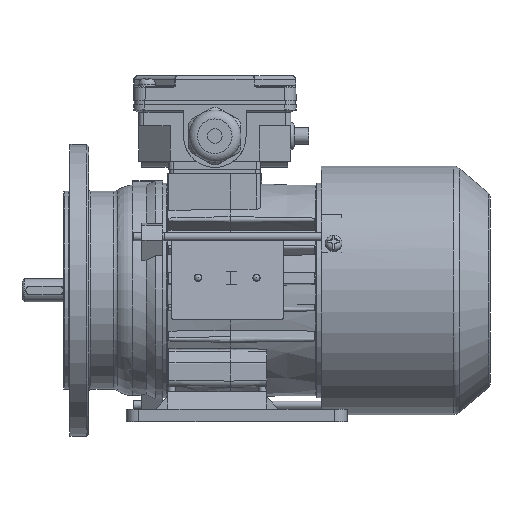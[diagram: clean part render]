
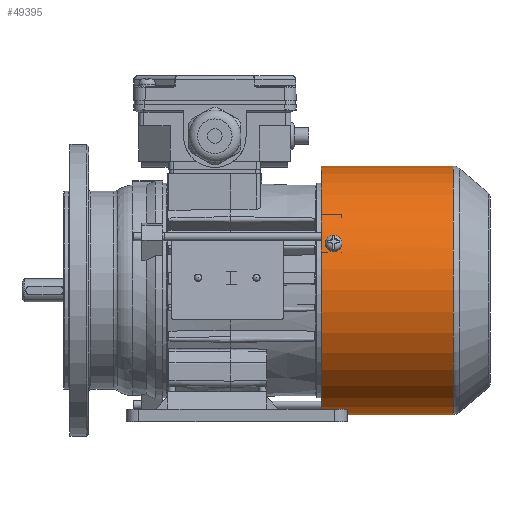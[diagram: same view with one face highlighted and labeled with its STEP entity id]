
A CAD part, front view. The second image highlights one B-rep face of the part: STEP entity #49395.
In plain terms, the highlighted cylindrical face has radius 59.6 mm (diameter 119.2 mm), a full revolution.
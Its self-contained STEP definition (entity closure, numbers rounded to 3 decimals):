
#837=B_SPLINE_CURVE_WITH_KNOTS('',3,(#74218,#74219,#74220,#74221,#74222,
#74223,#74224),.UNSPECIFIED.,.F.,.F.,(4,1,1,1,4),(0.,0.002,
0.004,0.006,0.008),
 .UNSPECIFIED.);
#839=B_SPLINE_CURVE_WITH_KNOTS('',3,(#74242,#74243,#74244,#74245,#74246,
#74247,#74248),.UNSPECIFIED.,.F.,.F.,(4,1,1,1,4),(0.,0.002,
0.004,0.006,0.008),
 .UNSPECIFIED.);
#841=B_SPLINE_CURVE_WITH_KNOTS('',3,(#74270,#74271,#74272,#74273,#74274,
#74275,#74276),.UNSPECIFIED.,.F.,.F.,(4,1,1,1,4),(0.,0.002,
0.004,0.006,0.008),
 .UNSPECIFIED.);
#843=B_SPLINE_CURVE_WITH_KNOTS('',3,(#74294,#74295,#74296,#74297,#74298,
#74299,#74300),.UNSPECIFIED.,.F.,.F.,(4,1,1,1,4),(0.,0.002,
0.004,0.006,0.008),
 .UNSPECIFIED.);
#844=B_SPLINE_CURVE_WITH_KNOTS('',3,(#74305,#74306,#74307,#74308,#74309,
#74310,#74311),.UNSPECIFIED.,.F.,.F.,(4,1,1,1,4),(0.,0.002,
0.004,0.006,0.007),
 .UNSPECIFIED.);
#845=B_SPLINE_CURVE_WITH_KNOTS('',3,(#74314,#74315,#74316,#74317,#74318,
#74319,#74320),.UNSPECIFIED.,.F.,.F.,(4,1,1,1,4),(0.,
0.002,0.004,0.006,0.007),
 .UNSPECIFIED.);
#1717=CYLINDRICAL_SURFACE('',#52664,59.6);
#2686=CIRCLE('',#51479,59.6);
#3241=CIRCLE('',#52648,59.6);
#3243=CIRCLE('',#52653,59.6);
#3244=CIRCLE('',#52655,59.6);
#3246=CIRCLE('',#52659,59.6);
#3248=CIRCLE('',#52663,59.6);
#11276=ORIENTED_EDGE('',*,*,#17951,.T.);
#11277=ORIENTED_EDGE('',*,*,#17948,.T.);
#11278=ORIENTED_EDGE('',*,*,#17956,.T.);
#11279=ORIENTED_EDGE('',*,*,#17954,.T.);
#11280=ORIENTED_EDGE('',*,*,#17970,.F.);
#11281=ORIENTED_EDGE('',*,*,#17971,.F.);
#11282=ORIENTED_EDGE('',*,*,#17964,.T.);
#11283=ORIENTED_EDGE('',*,*,#17961,.T.);
#11284=ORIENTED_EDGE('',*,*,#17969,.T.);
#11285=ORIENTED_EDGE('',*,*,#17967,.T.);
#11286=ORIENTED_EDGE('',*,*,#16345,.F.);
#11287=ORIENTED_EDGE('',*,*,#17957,.T.);
#16345=EDGE_CURVE('',#20813,#20813,#2686,.T.);
#17948=EDGE_CURVE('',#21908,#21911,#837,.T.);
#17951=EDGE_CURVE('',#21912,#21908,#3241,.F.);
#17954=EDGE_CURVE('',#21914,#21912,#839,.T.);
#17956=EDGE_CURVE('',#21911,#21914,#3243,.F.);
#17957=EDGE_CURVE('',#21916,#21916,#3244,.F.);
#17961=EDGE_CURVE('',#21917,#21920,#841,.T.);
#17964=EDGE_CURVE('',#21921,#21917,#3246,.F.);
#17967=EDGE_CURVE('',#21923,#21921,#843,.T.);
#17969=EDGE_CURVE('',#21920,#21923,#3248,.F.);
#17970=EDGE_CURVE('',#21925,#21926,#844,.T.);
#17971=EDGE_CURVE('',#21926,#21925,#845,.T.);
#20813=VERTEX_POINT('',#70571);
#21908=VERTEX_POINT('',#74206);
#21911=VERTEX_POINT('',#74217);
#21912=VERTEX_POINT('',#74227);
#21914=VERTEX_POINT('',#74233);
#21916=VERTEX_POINT('',#74255);
#21917=VERTEX_POINT('',#74258);
#21920=VERTEX_POINT('',#74269);
#21921=VERTEX_POINT('',#74279);
#21923=VERTEX_POINT('',#74285);
#21925=VERTEX_POINT('',#74312);
#21926=VERTEX_POINT('',#74313);
#30082=EDGE_LOOP('',(#11276,#11277,#11278,#11279));
#30083=EDGE_LOOP('',(#11280,#11281));
#30084=EDGE_LOOP('',(#11282,#11283,#11284,#11285));
#30085=EDGE_LOOP('',(#11286));
#30086=EDGE_LOOP('',(#11287));
#32469=FACE_BOUND('',#30082,.T.);
#32470=FACE_BOUND('',#30083,.T.);
#32471=FACE_BOUND('',#30084,.T.);
#32472=FACE_BOUND('',#30085,.T.);
#32473=FACE_BOUND('',#30086,.T.);
#49395=ADVANCED_FACE('',(#32469,#32470,#32471,#32472,#32473),#1717,.T.);
#51479=AXIS2_PLACEMENT_3D('',#70570,#57840,#57841);
#52648=AXIS2_PLACEMENT_3D('',#74230,#61119,#61120);
#52653=AXIS2_PLACEMENT_3D('',#74252,#61130,#61131);
#52655=AXIS2_PLACEMENT_3D('',#74254,#61134,#61135);
#52659=AXIS2_PLACEMENT_3D('',#74282,#61145,#61146);
#52663=AXIS2_PLACEMENT_3D('',#74303,#61154,#61155);
#52664=AXIS2_PLACEMENT_3D('',#74304,#61156,#61157);
#57840=DIRECTION('',(-1.,0.,0.));
#57841=DIRECTION('',(0.,0.,1.));
#61119=DIRECTION('',(-1.,0.,0.));
#61120=DIRECTION('',(0.,0.866,-0.5));
#61130=DIRECTION('',(1.,0.,0.));
#61131=DIRECTION('',(0.,-0.866,0.5));
#61134=DIRECTION('',(1.,0.,0.));
#61135=DIRECTION('',(0.,0.,-1.));
#61145=DIRECTION('',(-1.,0.,0.));
#61146=DIRECTION('',(0.,0.,1.));
#61154=DIRECTION('',(1.,0.,0.));
#61155=DIRECTION('',(0.,0.,-1.));
#61156=DIRECTION('',(-1.,0.,0.));
#61157=DIRECTION('',(0.,0.,1.));
#70570=CARTESIAN_POINT('',(43.5,0.,0.));
#70571=CARTESIAN_POINT('',(43.5,0.,59.6));
#74206=CARTESIAN_POINT('',(52.,46.437,37.36));
#74217=CARTESIAN_POINT('',(47.,46.437,37.36));
#74218=CARTESIAN_POINT('',(52.,46.437,37.36));
#74219=CARTESIAN_POINT('',(52.,46.023,37.874));
#74220=CARTESIAN_POINT('',(51.458,45.191,38.867));
#74221=CARTESIAN_POINT('',(49.502,44.648,39.479));
#74222=CARTESIAN_POINT('',(47.542,45.19,38.869));
#74223=CARTESIAN_POINT('',(47.,46.023,37.874));
#74224=CARTESIAN_POINT('',(47.,46.437,37.36));
#74227=CARTESIAN_POINT('',(52.,47.484,36.02));
#74230=CARTESIAN_POINT('',(52.,0.,0.));
#74233=CARTESIAN_POINT('',(47.,47.484,36.02));
#74242=CARTESIAN_POINT('',(47.,47.484,36.02));
#74243=CARTESIAN_POINT('',(47.,47.883,35.493));
#74244=CARTESIAN_POINT('',(47.542,48.645,34.446));
#74245=CARTESIAN_POINT('',(49.498,49.108,33.771));
#74246=CARTESIAN_POINT('',(51.458,48.646,34.444));
#74247=CARTESIAN_POINT('',(52.,47.883,35.493));
#74248=CARTESIAN_POINT('',(52.,47.484,36.02));
#74252=CARTESIAN_POINT('',(47.,0.,0.));
#74254=CARTESIAN_POINT('',(106.809,0.,0.));
#74255=CARTESIAN_POINT('',(106.809,0.,-59.6));
#74258=CARTESIAN_POINT('',(52.,-55.573,21.536));
#74269=CARTESIAN_POINT('',(47.,-55.573,21.536));
#74270=CARTESIAN_POINT('',(52.,-55.573,21.536));
#74271=CARTESIAN_POINT('',(52.,-55.812,20.92));
#74272=CARTESIAN_POINT('',(51.458,-56.255,19.703));
#74273=CARTESIAN_POINT('',(49.502,-56.514,18.927));
#74274=CARTESIAN_POINT('',(47.542,-56.256,19.701));
#74275=CARTESIAN_POINT('',(47.,-55.812,20.92));
#74276=CARTESIAN_POINT('',(47.,-55.573,21.536));
#74279=CARTESIAN_POINT('',(52.,-54.936,23.112));
#74282=CARTESIAN_POINT('',(52.,0.,0.));
#74285=CARTESIAN_POINT('',(47.,-54.936,23.112));
#74294=CARTESIAN_POINT('',(47.,-54.936,23.112));
#74295=CARTESIAN_POINT('',(47.,-54.68,23.721));
#74296=CARTESIAN_POINT('',(47.542,-54.154,24.905));
#74297=CARTESIAN_POINT('',(49.498,-53.8,25.643));
#74298=CARTESIAN_POINT('',(51.458,-54.153,24.907));
#74299=CARTESIAN_POINT('',(52.,-54.68,23.721));
#74300=CARTESIAN_POINT('',(52.,-54.936,23.112));
#74303=CARTESIAN_POINT('',(47.,0.,0.));
#74304=CARTESIAN_POINT('',(-16.5,0.,0.));
#74305=CARTESIAN_POINT('',(52.,8.295,-59.02));
#74306=CARTESIAN_POINT('',(51.937,7.681,-59.106));
#74307=CARTESIAN_POINT('',(51.356,6.499,-59.249));
#74308=CARTESIAN_POINT('',(49.502,5.777,-59.318));
#74309=CARTESIAN_POINT('',(47.649,6.493,-59.25));
#74310=CARTESIAN_POINT('',(47.063,7.681,-59.106));
#74311=CARTESIAN_POINT('',(47.,8.295,-59.02));
#74312=CARTESIAN_POINT('',(52.,8.295,-59.02));
#74313=CARTESIAN_POINT('',(47.,8.295,-59.02));
#74314=CARTESIAN_POINT('',(47.,8.295,-59.02));
#74315=CARTESIAN_POINT('',(47.063,8.908,-58.934));
#74316=CARTESIAN_POINT('',(47.644,10.084,-58.746));
#74317=CARTESIAN_POINT('',(49.498,10.797,-58.613));
#74318=CARTESIAN_POINT('',(51.351,10.09,-58.745));
#74319=CARTESIAN_POINT('',(51.937,8.908,-58.934));
#74320=CARTESIAN_POINT('',(52.,8.295,-59.02));
